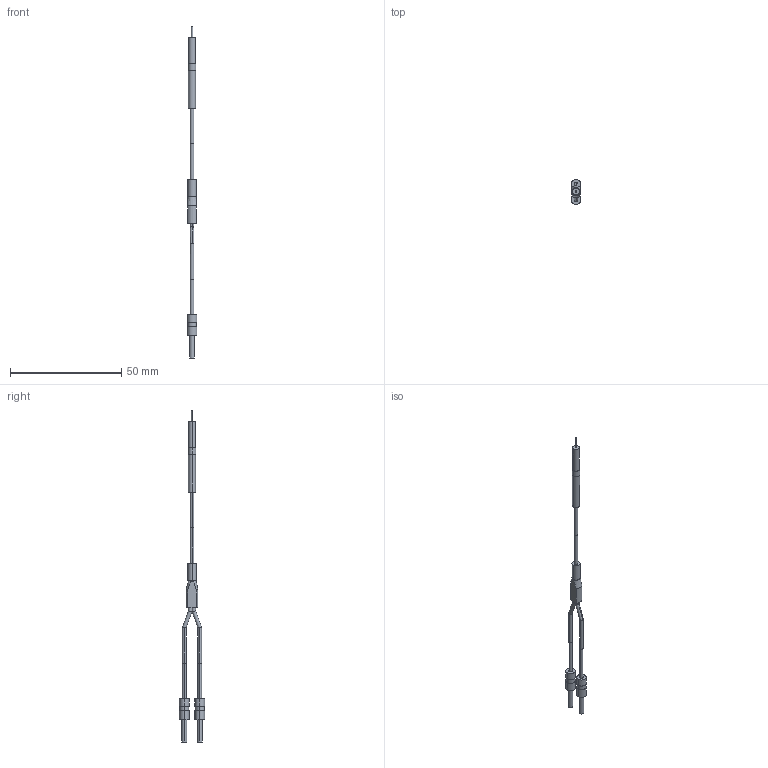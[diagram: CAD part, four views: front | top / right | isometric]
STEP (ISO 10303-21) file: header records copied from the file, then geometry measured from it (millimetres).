
FILE_DESCRIPTION (( 'STEP AP203' ), '1' );
FILE_NAME ('FD-E22.STEP', '2005-09-04T09:20:44', ( '川島良英' ), ( ' ' ), 'SwSTEP 2.0', 'SolidWorks 2004251', '' );
FILE_SCHEMA (( 'CONFIG_CONTROL_DESIGN' ));
Length unit declared in the file: millimetre
Products named in the file (1): FD-E22
Bounding box: 4.33 x 11.33 x 149.5 mm (x, y, z)
Volume: 1116 mm3; surface area: 1686.3 mm2
Topology: 4 solids, 4 shells, 78 faces, 154 edges, 100 vertices
Faces by surface type: cylinder 50, plane 26, cone 2
Entity records: 2153 total; most frequent: CARTESIAN_POINT 421, DIRECTION 380, ORIENTED_EDGE 308, AXIS2_PLACEMENT_3D 163, EDGE_CURVE 154, VERTEX_POINT 100, EDGE_LOOP 94, CIRCLE 84
